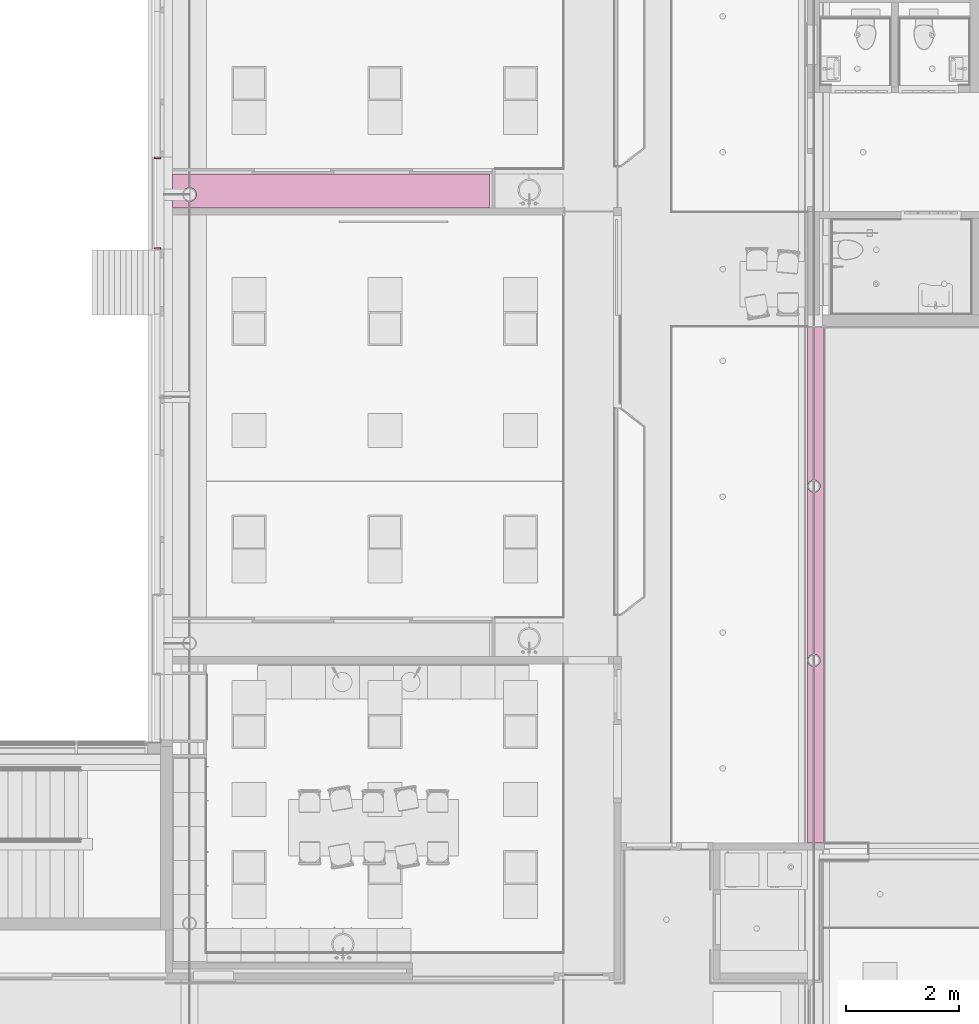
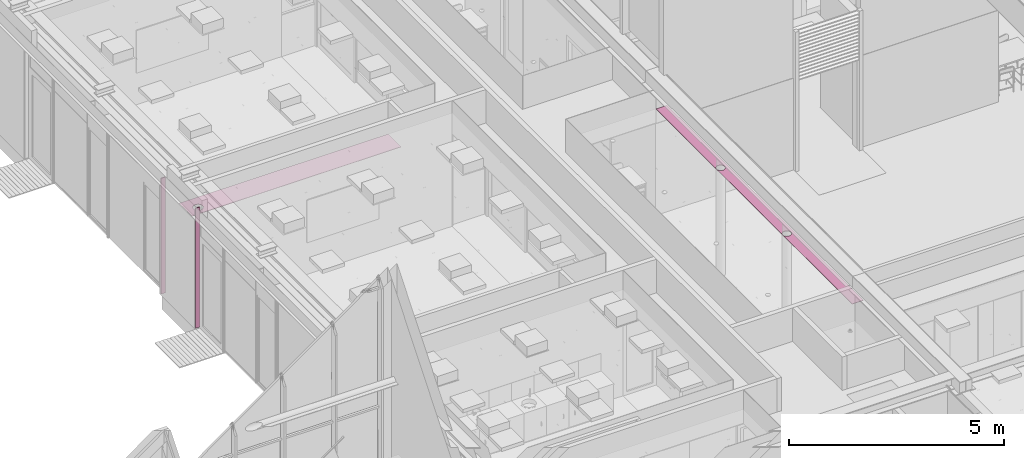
# One storey, part 322 of 347: 4 furnishings.
"""IFC2X3 building model written with IfcOpenShell, lengths in millimetres."""

from ifc_helpers import new_model, entity, si_unit, converted_unit, derived_unit, money_unit, direction, frame, origin_with_axes, place, context, subcontext, project, spatial, faceted_brep, material, type_object, element, save


model = new_model("IFC2X3")

# Units and contexts
model_context = context("Model", 3, precision=0.01, world=origin_with_axes(), true_north=direction((0.0, 1.0)))
plan_context = context("Plan", 3, precision=0.01, world=origin_with_axes(), true_north=direction((0.0, 1.0)))
body_context = subcontext(model_context, "Body", "Model", "MODEL_VIEW")
ifc_project = project(units=[si_unit("LENGTHUNIT", "METRE", prefix="MILLI"), si_unit("AREAUNIT", "SQUARE_METRE"), si_unit("VOLUMEUNIT", "CUBIC_METRE"), converted_unit("PLANEANGLEUNIT", "DEGREE", entity("IfcPlaneAngleMeasure", 0.0174532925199), si_unit("PLANEANGLEUNIT", "RADIAN"), dimensions=[0, 0, 0, 0, 0, 0, 0]), money_unit("EUR"), converted_unit("TIMEUNIT", "Year", entity("IfcTimeMeasure", 31556926.0), si_unit("TIMEUNIT", "SECOND"), dimensions=[0, 0, 1, 0, 0, 0, 0]), si_unit("MASSUNIT", "GRAM", prefix="KILO"), si_unit("THERMODYNAMICTEMPERATUREUNIT", "DEGREE_CELSIUS"), si_unit("LUMINOUSINTENSITYUNIT", "LUMEN"), si_unit("ENERGYUNIT", "JOULE", prefix="MEGA"), derived_unit("THERMALCONDUCTANCEUNIT", [(si_unit("POWERUNIT", "WATT"), 1), (si_unit("LENGTHUNIT", "METRE"), -1), (si_unit("THERMODYNAMICTEMPERATUREUNIT", "KELVIN"), -1)]), derived_unit("SPECIFICHEATCAPACITYUNIT", [(si_unit("ENERGYUNIT", "JOULE"), 1), (si_unit("MASSUNIT", "GRAM", prefix="KILO"), -1), (si_unit("THERMODYNAMICTEMPERATUREUNIT", "KELVIN"), -1)]), derived_unit("MASSDENSITYUNIT", [(si_unit("MASSUNIT", "GRAM", prefix="KILO"), 1), (si_unit("VOLUMEUNIT", "CUBIC_METRE"), -1)])], contexts=[model_context, plan_context])

# Site, building, storey
site_placement = place(None, origin_with_axes())
site = spatial("IfcSite", under=ifc_project, at=site_placement, Name="Site", CompositionType="ELEMENT")
building_placement = place(site_placement, origin_with_axes())
building = spatial("IfcBuilding", under=site, at=building_placement, Name="Naam gebouw", CompositionType="ELEMENT")
storey_placement = place(building_placement, origin_with_axes())
storey = spatial("IfcBuildingStorey", under=building, at=storey_placement, Name="begane grond", CompositionType="ELEMENT", Elevation=0.0)

# Furnishings
ifc_material_1 = material(Name="ALG - LICHTE SCHEIDINGSWAND")
furniture_type_1 = type_object("IfcFurnitureType", Name="44 koof plaf 50", AssemblyPlace="NOTDEFINED")
furnishing_1_placement = place(storey_placement, frame((35495.0, 16825.0, 3000.0), z_axis=(0.0, 0.0, 1.0), x_axis=(1.0, 0.0, 0.0)))
element("IfcFurnishingElement", 1, at=furnishing_1_placement, inside=storey, type_object=furniture_type_1, material=ifc_material_1, Name="72_75 vaste inrichting", ObjectType="SHELF", context=body_context, shape_type="Brep", body=[
    faceted_brep([(300.0, 9115.0, 0.0), (300.0, 0.0, 0.0), (0.0, 0.0, 0.0), (0.0, 9115.0, 0.0), (187.463547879, 3147.53645212, 0.0), (204.873082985, 3170.225, 0.0), (215.81717427, 3196.64637361, 0.0), (219.55, 3225.0, 0.0), (215.81717427, 3253.35362639, 0.0), (204.873082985, 3279.775, 0.0), (187.463547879, 3302.46354788, 0.0), (164.775, 3319.87308298, 0.0), (138.353626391, 3330.81717427, 0.0), (110.0, 3334.55, 0.0), (81.646373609, 3330.81717427, 0.0), (55.225, 3319.87308298, 0.0), (32.536452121, 3302.46354788, 0.0), (15.1269170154, 3279.775, 0.0), (4.18282573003, 3253.35362639, 0.0), (0.449999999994, 3225.0, 0.0), (4.18282573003, 3196.64637361, 0.0), (15.1269170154, 3170.225, 0.0), (32.536452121, 3147.53645212, 0.0), (55.225, 3130.12691702, 0.0), (81.646373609, 3119.18282573, 0.0), (110.0, 3115.45, 0.0), (138.353626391, 3119.18282573, 0.0), (164.775, 3130.12691702, 0.0), (187.463547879, 6222.53645212, 0.0), (204.873082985, 6245.225, 0.0), (215.81717427, 6271.64637361, 0.0), (219.55, 6300.0, 0.0), (215.81717427, 6328.35362639, 0.0), (204.873082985, 6354.775, 0.0), (187.463547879, 6377.46354788, 0.0), (164.775, 6394.87308298, 0.0), (138.353626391, 6405.81717427, 0.0), (110.0, 6409.55, 0.0), (81.646373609, 6405.81717427, 0.0), (55.225, 6394.87308298, 0.0), (32.536452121, 6377.46354788, 0.0), (15.1269170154, 6354.775, 0.0), (4.18282573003, 6328.35362639, 0.0), (0.449999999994, 6300.0, 0.0), (4.18282573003, 6271.64637361, 0.0), (15.1269170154, 6245.225, 0.0), (32.536452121, 6222.53645212, 0.0), (55.225, 6205.12691702, 0.0), (81.646373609, 6194.18282573, 0.0), (110.0, 6190.45, 0.0), (138.353626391, 6194.18282573, 0.0), (164.775, 6205.12691702, 0.0), (300.0, 9115.0, 12.0), (300.0, 0.0, 12.0), (0.0, 0.0, 12.0), (0.0, 9115.0, 12.0), (187.463547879, 3147.53645212, 12.0), (204.873082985, 3170.225, 12.0), (215.81717427, 3196.64637361, 12.0), (219.55, 3225.0, 12.0), (215.81717427, 3253.35362639, 12.0), (204.873082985, 3279.775, 12.0), (187.463547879, 3302.46354788, 12.0), (164.775, 3319.87308298, 12.0), (138.353626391, 3330.81717427, 12.0), (110.0, 3334.55, 12.0), (81.646373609, 3330.81717427, 12.0), (55.225, 3319.87308298, 12.0), (32.536452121, 3302.46354788, 12.0), (15.1269170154, 3279.775, 12.0), (4.18282573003, 3253.35362639, 12.0), (0.449999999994, 3225.0, 12.0), (4.18282573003, 3196.64637361, 12.0), (15.1269170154, 3170.225, 12.0), (32.536452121, 3147.53645212, 12.0), (55.225, 3130.12691702, 12.0), (81.646373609, 3119.18282573, 12.0), (110.0, 3115.45, 12.0), (138.353626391, 3119.18282573, 12.0), (164.775, 3130.12691702, 12.0), (187.463547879, 6222.53645212, 12.0), (204.873082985, 6245.225, 12.0), (215.81717427, 6271.64637361, 12.0), (219.55, 6300.0, 12.0), (215.81717427, 6328.35362639, 12.0), (204.873082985, 6354.775, 12.0), (187.463547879, 6377.46354788, 12.0), (164.775, 6394.87308298, 12.0), (138.353626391, 6405.81717427, 12.0), (110.0, 6409.55, 12.0), (81.646373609, 6405.81717427, 12.0), (55.225, 6394.87308298, 12.0), (32.536452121, 6377.46354788, 12.0), (15.1269170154, 6354.775, 12.0), (4.18282573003, 6328.35362639, 12.0), (0.449999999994, 6300.0, 12.0), (4.18282573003, 6271.64637361, 12.0), (15.1269170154, 6245.225, 12.0), (32.536452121, 6222.53645212, 12.0), (55.225, 6205.12691702, 12.0), (81.646373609, 6194.18282573, 12.0), (110.0, 6190.45, 12.0), (138.353626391, 6194.18282573, 12.0), (164.775, 6205.12691702, 12.0)], [[[0, 1, 2, 3], [4, 5, 6, 7, 8, 9, 10, 11, 12, 13, 14, 15, 16, 17, 18, 19, 20, 21, 22, 23, 24, 25, 26, 27], [28, 29, 30, 31, 32, 33, 34, 35, 36, 37, 38, 39, 40, 41, 42, 43, 44, 45, 46, 47, 48, 49, 50, 51]], [[52, 53, 1, 0]], [[53, 54, 2, 1]], [[54, 55, 3, 2]], [[55, 52, 0, 3]], [[4, 56, 57, 5]], [[5, 57, 58, 6]], [[6, 58, 59, 7]], [[7, 59, 60, 8]], [[8, 60, 61, 9]], [[9, 61, 62, 10]], [[10, 62, 63, 11]], [[11, 63, 64, 12]], [[12, 64, 65, 13]], [[13, 65, 66, 14]], [[14, 66, 67, 15]], [[15, 67, 68, 16]], [[16, 68, 69, 17]], [[17, 69, 70, 18]], [[18, 70, 71, 19]], [[19, 71, 72, 20]], [[20, 72, 73, 21]], [[21, 73, 74, 22]], [[22, 74, 75, 23]], [[23, 75, 76, 24]], [[24, 76, 77, 25]], [[25, 77, 78, 26]], [[26, 78, 79, 27]], [[27, 79, 56, 4]], [[28, 80, 81, 29]], [[29, 81, 82, 30]], [[30, 82, 83, 31]], [[31, 83, 84, 32]], [[32, 84, 85, 33]], [[33, 85, 86, 34]], [[34, 86, 87, 35]], [[35, 87, 88, 36]], [[36, 88, 89, 37]], [[37, 89, 90, 38]], [[38, 90, 91, 39]], [[39, 91, 92, 40]], [[40, 92, 93, 41]], [[41, 93, 94, 42]], [[42, 94, 95, 43]], [[43, 95, 96, 44]], [[44, 96, 97, 45]], [[45, 97, 98, 46]], [[46, 98, 99, 47]], [[47, 99, 100, 48]], [[48, 100, 101, 49]], [[49, 101, 102, 50]], [[50, 102, 103, 51]], [[51, 103, 80, 28]], [[52, 55, 54, 53], [62, 61, 60, 59, 58, 57, 56, 79, 78, 77, 76, 75, 74, 73, 72, 71, 70, 69, 68, 67, 66, 65, 64, 63], [86, 85, 84, 83, 82, 81, 80, 103, 102, 101, 100, 99, 98, 97, 96, 95, 94, 93, 92, 91, 90, 89, 88, 87]]]),
])
furnishing_2_placement = place(storey_placement, frame((24275.0000082, 28037.5, 2620.0), z_axis=(0.0, 0.0, 1.0), x_axis=(1.0, 0.0, 0.0)))
element("IfcFurnishingElement", 2, at=furnishing_2_placement, inside=storey, type_object=furniture_type_1, material=ifc_material_1, Name="72_78 vaste inrichting", ObjectType="SHELF", context=body_context, shape_type="Brep", body=[
    faceted_brep([(5599.9999918, 600.0, 0.0), (5599.9999918, 0.0, 0.0), (0.0, 0.0, 0.0), (0.0, 600.0, 0.0), (395.578890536, 161.278371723, 0.0), (410.143435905, 184.457712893, 0.0), (419.184929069, 210.296815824, 0.0), (422.249991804, 237.5, 0.0), (419.184929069, 264.703184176, 0.0), (410.143435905, 290.542287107, 0.0), (395.578890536, 313.721628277, 0.0), (376.221620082, 333.078898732, 0.0), (353.042278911, 347.643444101, 0.0), (327.20317598, 356.684937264, 0.0), (299.999991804, 359.75, 0.0), (272.796807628, 356.684937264, 0.0), (246.957704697, 347.643444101, 0.0), (223.778363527, 333.078898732, 0.0), (204.421093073, 313.721628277, 0.0), (189.856547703, 290.542287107, 0.0), (180.81505454, 264.703184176, 0.0), (177.749991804, 237.5, 0.0), (180.81505454, 210.296815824, 0.0), (189.856547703, 184.457712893, 0.0), (204.421093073, 161.278371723, 0.0), (223.778363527, 141.921101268, 0.0), (246.957704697, 127.356555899, 0.0), (272.796807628, 118.315062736, 0.0), (299.999991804, 115.25, 0.0), (327.20317598, 118.315062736, 0.0), (353.042278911, 127.356555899, 0.0), (376.221620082, 141.921101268, 0.0), (5599.9999918, 600.0, 12.0), (5599.9999918, 0.0, 12.0), (0.0, 0.0, 12.0), (0.0, 600.0, 12.0), (395.578890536, 161.278371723, 12.0), (410.143435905, 184.457712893, 12.0), (419.184929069, 210.296815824, 12.0), (422.249991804, 237.5, 12.0), (419.184929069, 264.703184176, 12.0), (410.143435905, 290.542287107, 12.0), (395.578890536, 313.721628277, 12.0), (376.221620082, 333.078898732, 12.0), (353.042278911, 347.643444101, 12.0), (327.20317598, 356.684937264, 12.0), (299.999991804, 359.75, 12.0), (272.796807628, 356.684937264, 12.0), (246.957704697, 347.643444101, 12.0), (223.778363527, 333.078898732, 12.0), (204.421093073, 313.721628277, 12.0), (189.856547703, 290.542287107, 12.0), (180.81505454, 264.703184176, 12.0), (177.749991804, 237.5, 12.0), (180.81505454, 210.296815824, 12.0), (189.856547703, 184.457712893, 12.0), (204.421093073, 161.278371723, 12.0), (223.778363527, 141.921101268, 12.0), (246.957704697, 127.356555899, 12.0), (272.796807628, 118.315062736, 12.0), (299.999991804, 115.25, 12.0), (327.20317598, 118.315062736, 12.0), (353.042278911, 127.356555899, 12.0), (376.221620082, 141.921101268, 12.0)], [[[0, 1, 2, 3], [4, 5, 6, 7, 8, 9, 10, 11, 12, 13, 14, 15, 16, 17, 18, 19, 20, 21, 22, 23, 24, 25, 26, 27, 28, 29, 30, 31]], [[32, 33, 1, 0]], [[33, 34, 2, 1]], [[34, 35, 3, 2]], [[35, 32, 0, 3]], [[4, 36, 37, 5]], [[5, 37, 38, 6]], [[6, 38, 39, 7]], [[7, 39, 40, 8]], [[8, 40, 41, 9]], [[9, 41, 42, 10]], [[10, 42, 43, 11]], [[11, 43, 44, 12]], [[12, 44, 45, 13]], [[13, 45, 46, 14]], [[14, 46, 47, 15]], [[15, 47, 48, 16]], [[16, 48, 49, 17]], [[17, 49, 50, 18]], [[18, 50, 51, 19]], [[19, 51, 52, 20]], [[20, 52, 53, 21]], [[21, 53, 54, 22]], [[22, 54, 55, 23]], [[23, 55, 56, 24]], [[24, 56, 57, 25]], [[25, 57, 58, 26]], [[26, 58, 59, 27]], [[27, 59, 60, 28]], [[28, 60, 61, 29]], [[29, 61, 62, 30]], [[30, 62, 63, 31]], [[31, 63, 36, 4]], [[32, 35, 34, 33], [42, 41, 40, 39, 38, 37, 36, 63, 62, 61, 60, 59, 58, 57, 56, 55, 54, 53, 52, 51, 50, 49, 48, 47, 46, 45, 44, 43]]]),
])
ifc_material_2 = material(Name="24 Hout gevelbekleding Lariks master")
furniture_type_2 = type_object("IfcFurnitureType", Name="24 Hout gevelbekleding Lariks master 3280", AssemblyPlace="NOTDEFINED")
furnishing_3_placement = place(storey_placement, frame((23949.999996, 28912.5, 0.0), z_axis=(0.0, 0.0, 1.0), x_axis=(1.0, 0.0, 0.0)))
element("IfcFurnishingElement", 3, at=furnishing_3_placement, inside=storey, type_object=furniture_type_2, material=ifc_material_2, Name="72_74 vaste inrichting", ObjectType="SHELF", context=body_context, shape_type="Brep", body=[
    faceted_brep([(0.0, 0.0, 3279.81793414), (0.0, 0.0, 0.0), (113.000123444, 0.0, 0.0), (113.000123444, 0.0, 3279.81793414), (1.66893094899e-05, 25.0, 3279.81793414), (1.66893094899e-05, 25.0, 0.0), (113.000123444, 25.0, 0.0), (113.000123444, 25.0, 3279.81793414)], [[[0, 1, 2, 3]], [[4, 5, 1, 0]], [[2, 1, 5, 6]], [[3, 2, 6, 7]], [[4, 0, 3, 7]], [[7, 6, 5, 4]]]),
])
furniture_type_3 = type_object("IfcFurnitureType", Name="24 Hout gevelbekleding Lariks master 3400", AssemblyPlace="NOTDEFINED")
furnishing_4_placement = place(storey_placement, frame((23949.9998766, 27312.5, 0.0), z_axis=(0.0, 0.0, 1.0), x_axis=(1.0, 0.0, 0.0)))
element("IfcFurnishingElement", 4, at=furnishing_4_placement, inside=storey, type_object=furniture_type_3, material=ifc_material_2, Name="72_74 vaste inrichting", ObjectType="SHELF", context=body_context, shape_type="Brep", body=[
    faceted_brep([(0.0, 0.0, 3400.0), (0.0, 0.0, 0.0), (113.000123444, 0.0, 0.0), (113.000123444, 0.0, 3400.0), (1.66893094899e-05, 25.0, 3400.0), (1.66893094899e-05, 25.0, 0.0), (113.000123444, 25.0, 0.0), (113.000123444, 25.0, 3400.0)], [[[0, 1, 2, 3]], [[4, 5, 1, 0]], [[2, 1, 5, 6]], [[3, 2, 6, 7]], [[4, 0, 3, 7]], [[7, 6, 5, 4]]]),
])

save(model, "model.ifc")
